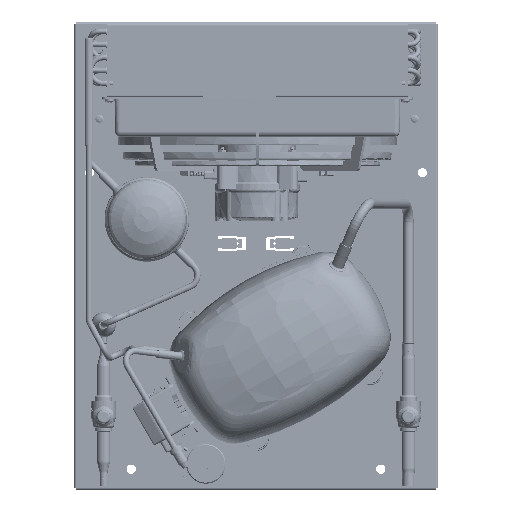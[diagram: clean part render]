
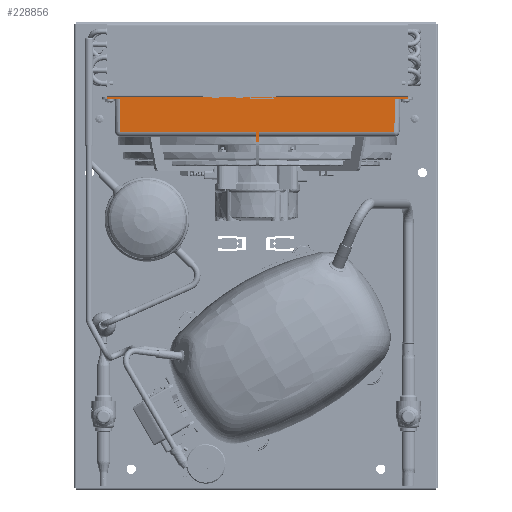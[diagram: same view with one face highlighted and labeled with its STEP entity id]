
A CAD part, top view. The second image highlights one B-rep face of the part: STEP entity #228856.
In plain terms, the highlighted planar face has unit normal (0, -0.018, 1) as drawn and (0, 1, 0.017) by its records, which use the part's own axes.
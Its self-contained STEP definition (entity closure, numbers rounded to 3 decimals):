
#5953=B_SPLINE_CURVE_WITH_KNOTS('',3,(#521687,#521688,#521689,#521690,#521691,
#521692,#521693,#521694,#521695,#521696),.UNSPECIFIED.,.F.,.F.,(4,1,1,1,
1,1,1,4),(0.,0.001,0.001,
0.001,0.002,0.002,0.002,
0.002),.UNSPECIFIED.);
#5954=B_SPLINE_CURVE_WITH_KNOTS('',3,(#521838,#521839,#521840,#521841,#521842,
#521843,#521844,#521845,#521846,#521847),.UNSPECIFIED.,.F.,.F.,(4,1,1,1,
1,1,1,4),(0.,0.001,0.001,
0.001,0.002,0.002,0.002,
0.002),.UNSPECIFIED.);
#21718=LINE('',#485023,#37040);
#21738=LINE('',#485071,#37060);
#21758=LINE('',#485123,#37080);
#22170=LINE('',#521878,#37492);
#22171=LINE('',#521881,#37493);
#22172=LINE('',#521883,#37494);
#22173=LINE('',#521884,#37495);
#22174=LINE('',#521886,#37496);
#22175=LINE('',#521888,#37497);
#22176=LINE('',#521890,#37498);
#37040=VECTOR('',#337710,1000.);
#37060=VECTOR('',#337740,1000.);
#37080=VECTOR('',#337772,1000.);
#37492=VECTOR('',#339520,1000.);
#37493=VECTOR('',#339521,1000.);
#37494=VECTOR('',#339522,1000.);
#37495=VECTOR('',#339523,1000.);
#37496=VECTOR('',#339524,1000.);
#37497=VECTOR('',#339525,1000.);
#37498=VECTOR('',#339526,1000.);
#63146=ORIENTED_EDGE('',*,*,#126520,.F.);
#63147=ORIENTED_EDGE('',*,*,#126521,.T.);
#63148=ORIENTED_EDGE('',*,*,#126522,.T.);
#63149=ORIENTED_EDGE('',*,*,#124888,.F.);
#63150=ORIENTED_EDGE('',*,*,#126434,.T.);
#63151=ORIENTED_EDGE('',*,*,#124839,.F.);
#63152=ORIENTED_EDGE('',*,*,#126505,.F.);
#63153=ORIENTED_EDGE('',*,*,#124863,.T.);
#63154=ORIENTED_EDGE('',*,*,#126523,.T.);
#63155=ORIENTED_EDGE('',*,*,#126524,.T.);
#63156=ORIENTED_EDGE('',*,*,#126525,.T.);
#63157=ORIENTED_EDGE('',*,*,#126526,.F.);
#124839=EDGE_CURVE('',#158083,#158084,#21718,.T.);
#124863=EDGE_CURVE('',#158107,#158108,#21738,.T.);
#124888=EDGE_CURVE('',#158132,#158133,#21758,.T.);
#126434=EDGE_CURVE('',#158132,#158084,#5953,.T.);
#126505=EDGE_CURVE('',#158107,#158083,#5954,.T.);
#126520=EDGE_CURVE('',#159195,#159196,#22170,.T.);
#126521=EDGE_CURVE('',#159195,#159197,#22171,.F.);
#126522=EDGE_CURVE('',#159197,#158133,#22172,.F.);
#126523=EDGE_CURVE('',#158108,#159198,#22173,.T.);
#126524=EDGE_CURVE('',#159198,#159199,#22174,.F.);
#126525=EDGE_CURVE('',#159199,#159200,#22175,.T.);
#126526=EDGE_CURVE('',#159196,#159200,#22176,.T.);
#158083=VERTEX_POINT('',#485022);
#158084=VERTEX_POINT('',#485024);
#158107=VERTEX_POINT('',#485072);
#158108=VERTEX_POINT('',#485073);
#158132=VERTEX_POINT('',#485122);
#158133=VERTEX_POINT('',#485124);
#159195=VERTEX_POINT('',#521879);
#159196=VERTEX_POINT('',#521880);
#159197=VERTEX_POINT('',#521882);
#159198=VERTEX_POINT('',#521885);
#159199=VERTEX_POINT('',#521887);
#159200=VERTEX_POINT('',#521889);
#189689=EDGE_LOOP('',(#63146,#63147,#63148,#63149,#63150,#63151,#63152,
#63153,#63154,#63155,#63156,#63157));
#206900=FACE_BOUND('',#189689,.T.);
#220609=PLANE('',#312749);
#228856=ADVANCED_FACE('',(#206900),#220609,.F.);
#312749=AXIS2_PLACEMENT_3D('',#521877,#339518,#339519);
#337710=DIRECTION('',(1.,0.,0.));
#337740=DIRECTION('',(1.,0.,0.));
#337772=DIRECTION('',(-1.,0.,0.));
#339518=DIRECTION('',(0.,-1.,-0.017));
#339519=DIRECTION('',(0.,0.017,-1.));
#339520=DIRECTION('',(0.,-0.017,1.));
#339521=DIRECTION('',(-1.,0.,0.));
#339522=DIRECTION('',(-0.017,-0.017,1.));
#339523=DIRECTION('',(0.017,-0.017,1.));
#339524=DIRECTION('',(-1.,0.,0.));
#339525=DIRECTION('',(0.,-0.017,1.));
#339526=DIRECTION('',(-1.,0.,0.));
#485022=CARTESIAN_POINT('',(-144.375,138.363,0.));
#485023=CARTESIAN_POINT('',(-144.375,138.363,0.));
#485024=CARTESIAN_POINT('',(144.375,138.363,0.));
#485071=CARTESIAN_POINT('',(140.869,138.328,2.));
#485072=CARTESIAN_POINT('',(-144.965,138.328,2.));
#485073=CARTESIAN_POINT('',(-132.329,138.328,2.));
#485122=CARTESIAN_POINT('',(144.965,138.328,2.));
#485123=CARTESIAN_POINT('',(140.869,138.328,2.));
#485124=CARTESIAN_POINT('',(132.329,138.328,2.));
#521687=CARTESIAN_POINT('',(144.965,138.328,2.));
#521688=CARTESIAN_POINT('',(144.939,138.331,1.824));
#521689=CARTESIAN_POINT('',(144.884,138.338,1.472));
#521690=CARTESIAN_POINT('',(144.802,138.345,1.035));
#521691=CARTESIAN_POINT('',(144.723,138.351,0.688));
#521692=CARTESIAN_POINT('',(144.653,138.356,0.431));
#521693=CARTESIAN_POINT('',(144.577,138.359,0.22));
#521694=CARTESIAN_POINT('',(144.492,138.362,0.066));
#521695=CARTESIAN_POINT('',(144.42,138.363,0.));
#521696=CARTESIAN_POINT('',(144.375,138.363,0.));
#521838=CARTESIAN_POINT('',(-144.965,138.328,2.));
#521839=CARTESIAN_POINT('',(-144.939,138.331,1.824));
#521840=CARTESIAN_POINT('',(-144.884,138.338,1.472));
#521841=CARTESIAN_POINT('',(-144.802,138.345,1.035));
#521842=CARTESIAN_POINT('',(-144.723,138.351,0.688));
#521843=CARTESIAN_POINT('',(-144.653,138.356,0.431));
#521844=CARTESIAN_POINT('',(-144.577,138.359,0.22));
#521845=CARTESIAN_POINT('',(-144.492,138.362,0.066));
#521846=CARTESIAN_POINT('',(-144.42,138.363,0.));
#521847=CARTESIAN_POINT('',(-144.375,138.363,0.));
#521877=CARTESIAN_POINT('',(432.954,137.811,31.613));
#521878=CARTESIAN_POINT('',(1.5,137.617,42.731));
#521879=CARTESIAN_POINT('',(1.5,137.786,33.087));
#521880=CARTESIAN_POINT('',(1.5,137.617,42.731));
#521881=CARTESIAN_POINT('',(432.954,137.786,33.087));
#521882=CARTESIAN_POINT('',(131.787,137.786,33.087));
#521883=CARTESIAN_POINT('',(132.331,138.33,1.913));
#521884=CARTESIAN_POINT('',(-131.702,137.702,37.913));
#521885=CARTESIAN_POINT('',(-131.787,137.786,33.087));
#521886=CARTESIAN_POINT('',(432.954,137.786,33.087));
#521887=CARTESIAN_POINT('',(-1.5,137.786,33.087));
#521888=CARTESIAN_POINT('',(-1.5,137.617,42.731));
#521889=CARTESIAN_POINT('',(-1.5,137.617,42.731));
#521890=CARTESIAN_POINT('',(1.5,137.617,42.731));
